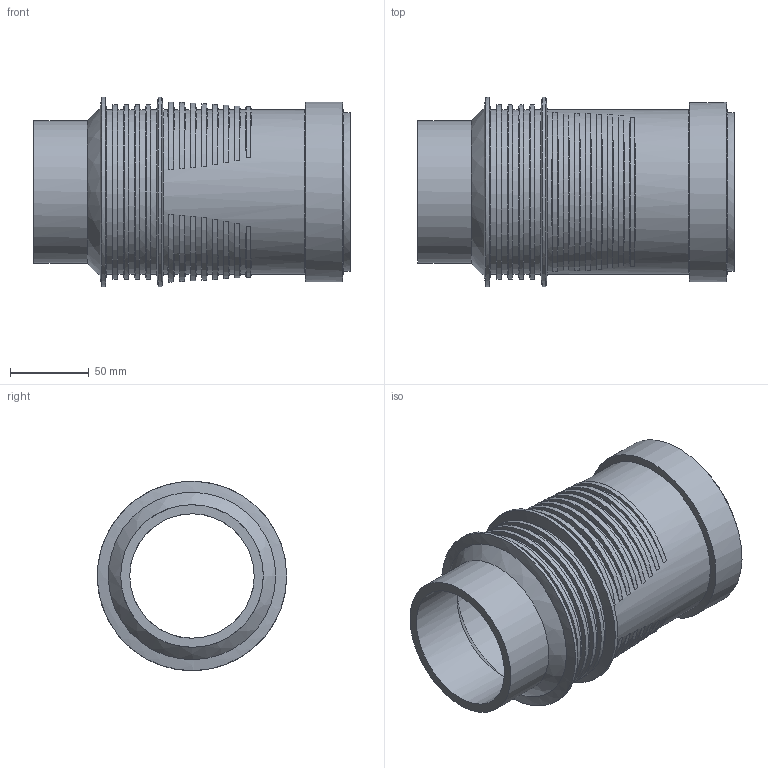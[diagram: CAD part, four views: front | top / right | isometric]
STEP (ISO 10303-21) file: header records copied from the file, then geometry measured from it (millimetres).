
FILE_DESCRIPTION(/* description */ (''),/* implementation_level */ '2;1');
FILE_NAME(/* name */ 'H:\Geberit-Teile\Export\Fertig zum Export\Langmuffen m. Doppelbund\stp\308012.stp',/* time_stamp */ '2017-07-17T11:57:16+02:00',/* author */ ('seihe2'),/* organization */ (''),/* preprocessor_version */ 'ST-DEVELOPER v15.2',/* originating_system */ 'Autodesk Inventor 2014',/* authorisation */ '');
FILE_SCHEMA (('AUTOMOTIVE_DESIGN { 1 0 10303 214 3 1 1 }'));
Length unit declared in the file: millimetre
Products named in the file (1): 308012
Bounding box: 200.5 x 120 x 120 mm (x, y, z)
Volume: 397198.2 mm3; surface area: 160460.1 mm2
Topology: 1 solids, 1 shells, 93 faces, 300 edges, 218 vertices
Faces by surface type: cone 51, cylinder 37, plane 3, bspline 2
Full cylindrical faces by diameter (mm): 78.875 x1, 90.375 x1, 92.8 x1, 93.18 x1, 100.53 x1, 104.3 x5, 106.25 x1, 110.4 x4, 113.6 x1, 120 x2
Entity records: 4049 total; most frequent: CARTESIAN_POINT 1759, ORIENTED_EDGE 454, DIRECTION 387, EDGE_CURVE 227, VERTEX_POINT 185, AXIS2_PLACEMENT_3D 175, EDGE_LOOP 144, B_SPLINE_CURVE_WITH_KNOTS 105
